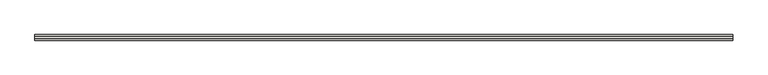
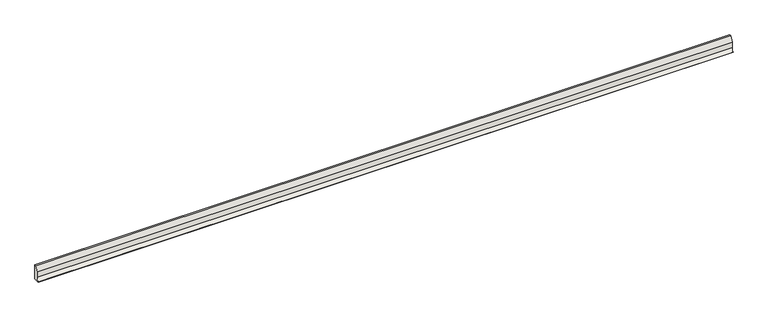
"""IFC4 building model written with IfcOpenShell, lengths in millimetres: wall geometry, GM_PC_WPB_ACO kerb PB straight_ACO : PB H100 plain."""

import ifcopenshell
import ifcopenshell.guid

model = None  # the IFC model being written
_history = None  # IfcOwnerHistory: only IFC2X3 demands one
_inside = {}  # id of a spatial element -> (the spatial element, [elements in it])
_under = {}  # id of a project, library or spatial element -> (it, [spatial elements below it])
_declared = {}  # id of a project -> (the project, [libraries it declares])
_typed = {}  # id of a type object -> (the type object, [elements of that type])
_made_of = {}  # id of a material, layer set ... -> (it, [elements and type objects made of it])


def new_model(schema):
    """Start an empty IFC model of exactly this schema.

    Asked for "IFC4X3", IfcOpenShell would pick the latest addendum, in which some entities
    have other attributes; the version numbers below select the first issue.
    IFC2X3 requires an IfcOwnerHistory on every rooted entity: one is made here for all.
    """
    global model, _history
    if schema == "IFC4X3":
        model = ifcopenshell.file(schema_version=(4, 3, 0, 0))
    else:
        model = ifcopenshell.file(schema=schema)
    _inside.clear()
    _under.clear()
    _declared.clear()
    _typed.clear()
    _made_of.clear()
    _history = None
    if model.schema == "IFC2X3":
        org = make("IfcOrganization", Name="unknown")
        user = make(
            "IfcPersonAndOrganization",
            ThePerson=make("IfcPerson", FamilyName="unknown"),
            TheOrganization=org,
        )
        app = make(
            "IfcApplication",
            ApplicationDeveloper=org,
            Version="unknown",
            ApplicationFullName="unknown",
            ApplicationIdentifier="unknown",
        )
        _history = make(
            "IfcOwnerHistory",
            OwningUser=user,
            OwningApplication=app,
            ChangeAction="ADDED",
            CreationDate=0,
        )
    return model


def make(cls, **values):
    """One entity of the class cls with the attributes given. An attribute that is None is left unset."""
    return model.create_entity(
        cls, **{name: value for name, value in values.items() if value is not None}
    )


def rooted(cls, **values):
    """An entity with a GlobalId (a new one), such as an element, a storey or a relation."""
    return make(cls, GlobalId=ifcopenshell.guid.new(), OwnerHistory=_history, **values)


def si_unit(unit_type, name, prefix=None):
    """IfcSIUnit, for example si_unit("LENGTHUNIT", "METRE", prefix="MILLI")."""
    return make("IfcSIUnit", UnitType=unit_type, Prefix=prefix, Name=name)


def assignment(units):
    """IfcUnitAssignment: the units of a project."""
    return None if units is None else make("IfcUnitAssignment", Units=units)


def point(xyz):
    """IfcCartesianPoint."""
    return None if xyz is None else make("IfcCartesianPoint", Coordinates=xyz)


def direction(xyz):
    """IfcDirection."""
    return None if xyz is None else make("IfcDirection", DirectionRatios=xyz)


def frame(location, z_axis=None, x_axis=None):
    """IfcAxis2Placement3D, a coordinate frame: its origin and axes. An axis left out is left unset."""
    return make(
        "IfcAxis2Placement3D",
        Location=point(location),
        Axis=direction(z_axis),
        RefDirection=direction(x_axis),
    )


def frame_2d(location, x_axis=None):
    """IfcAxis2Placement2D, a coordinate frame in the plane: its origin and x axis."""
    return make(
        "IfcAxis2Placement2D", Location=point(location), RefDirection=direction(x_axis)
    )


def origin():
    """The frame at (0, 0, 0) with its axes left unset."""
    return frame((0.0, 0.0, 0.0))


def place(relative_to, where):
    """IfcLocalPlacement: puts the frame where relative to a parent placement (None: the world)."""
    return make(
        "IfcLocalPlacement", PlacementRelTo=relative_to, RelativePlacement=where
    )


def context(
    kind, dimensions, precision=None, world=None, true_north=None, identifier=None
):
    """IfcGeometricRepresentationContext, for example the 3D "Model" context."""
    return make(
        "IfcGeometricRepresentationContext",
        ContextIdentifier=identifier,
        ContextType=kind,
        CoordinateSpaceDimension=dimensions,
        Precision=precision,
        WorldCoordinateSystem=world,
        TrueNorth=true_north,
    )


def project(units=None, contexts=None):
    """IfcProject with its units and contexts."""
    return rooted(
        "IfcProject",
        Name="project",
        RepresentationContexts=contexts,
        UnitsInContext=assignment(units),
    )


def spatial(cls, under=None, at=None, **own):
    """A site, building, storey or space (cls), placed at a placement, below another one or the project."""
    s = rooted(cls, ObjectPlacement=at, **own)
    if under is not None:
        _under.setdefault(under.id(), (under, []))[1].append(s)
    return s


def polyline(points):
    """IfcPolyline through the points."""
    return make("IfcPolyline", Points=[point(p) for p in points])


def circle_curve(where, radius):
    """IfcCircle in the frame where."""
    return make("IfcCircle", Position=where, Radius=radius)


def trimmed(basis, trim1, trim2, sense, master):
    """IfcTrimmedCurve: the piece of a basis curve between two trims."""
    return make(
        "IfcTrimmedCurve",
        BasisCurve=basis,
        Trim1=trim1,
        Trim2=trim2,
        SenseAgreement=sense,
        MasterRepresentation=master,
    )


def segment(curve, same_sense, transition):
    """IfcCompositeCurveSegment."""
    return make(
        "IfcCompositeCurveSegment",
        Transition=transition,
        SameSense=same_sense,
        ParentCurve=curve,
    )


def composite_curve(segments, self_intersect=None):
    """IfcCompositeCurve: segments joined end to end."""
    return make("IfcCompositeCurve", Segments=segments, SelfIntersect=self_intersect)


def outline(outer, holes=None, kind="AREA"):
    """IfcArbitraryClosedProfileDef: a profile drawn as a closed curve; with holes, ...WithVoids."""
    if holes is None:
        return make("IfcArbitraryClosedProfileDef", ProfileType=kind, OuterCurve=outer)
    return make(
        "IfcArbitraryProfileDefWithVoids",
        ProfileType=kind,
        OuterCurve=outer,
        InnerCurves=holes,
    )


def extrude(swept, where, along, depth):
    """IfcExtrudedAreaSolid: the profile swept, set in the frame where, extruded along a direction by depth."""
    return make(
        "IfcExtrudedAreaSolid",
        SweptArea=swept,
        Position=where,
        ExtrudedDirection=direction(along),
        Depth=depth,
    )


def shape(context_of_items, identifier, shape_type, items):
    """IfcShapeRepresentation: the items that make up one representation, for example the "Body"."""
    return make(
        "IfcShapeRepresentation",
        ContextOfItems=context_of_items,
        RepresentationIdentifier=identifier,
        RepresentationType=shape_type,
        Items=items,
    )


def source(mapping_origin, context_of_items, identifier, shape_type, items):
    """IfcRepresentationMap: a shape defined once, which mapped items show again and again."""
    return make(
        "IfcRepresentationMap",
        MappingOrigin=mapping_origin,
        MappedRepresentation=shape(context_of_items, identifier, shape_type, items),
    )


def transform(
    local_origin,
    x_axis=None,
    y_axis=None,
    z_axis=None,
    scale=None,
    scale2=None,
    scale3=None,
    uniform=True,
):
    """IfcCartesianTransformationOperator3D, or its non-uniform kind. x_axis, y_axis, z_axis: its Axis1, 2, 3."""
    if uniform:
        return make(
            "IfcCartesianTransformationOperator3D",
            Axis1=direction(x_axis),
            Axis2=direction(y_axis),
            LocalOrigin=point(local_origin),
            Scale=scale,
            Axis3=direction(z_axis),
        )
    return make(
        "IfcCartesianTransformationOperator3DnonUniform",
        Axis1=direction(x_axis),
        Axis2=direction(y_axis),
        LocalOrigin=point(local_origin),
        Scale=scale,
        Axis3=direction(z_axis),
        Scale2=scale2,
        Scale3=scale3,
    )


def mapped(mapping_source, mapping_target):
    """IfcMappedItem: shows the shape of a source again, moved by a transform."""
    return make(
        "IfcMappedItem", MappingSource=mapping_source, MappingTarget=mapping_target
    )


def made_of(thing, what):
    """Note that an element or type object is made of a material, layer set ...; save() writes the relation."""
    if what is not None:
        _made_of.setdefault(what.id(), (what, []))[1].append(thing)
    return thing


def element(
    cls,
    number,
    at=None,
    inside=None,
    cuts=None,
    type_object=None,
    material=None,
    context=None,
    identifier="Body",
    shape_type=None,
    held_by="IfcProductDefinitionShape",
    body=None,
    shapes=None,
    **own,
):
    """One element of the class cls, such as IfcWall. Its Tag is "e" and its number.

    at: its placement. inside: the storey or other place that contains it. cuts: it is an
    opening in that element (IfcRelVoidsElement). A single representation is given by context,
    identifier, shape_type and body (its items); several are given by shapes. held_by: the class
    of the entity that holds the representations. save() writes the other relations.
    """
    e = rooted(cls, Tag="e%d" % number, ObjectPlacement=at, **own)
    if body is not None:
        shapes = [shape(context, identifier, shape_type, body)]
    if shapes is not None:
        e.Representation = make(held_by, Representations=shapes)
    if inside is not None:
        _inside.setdefault(inside.id(), (inside, []))[1].append(e)
    if cuts is not None:
        rooted(
            "IfcRelVoidsElement", RelatingBuildingElement=cuts, RelatedOpeningElement=e
        )
    if type_object is not None:
        _typed.setdefault(type_object.id(), (type_object, []))[1].append(e)
    return made_of(e, material)


def aggregate(whole, parts):
    """IfcRelAggregates: a whole, such as a stair, and the parts it consists of."""
    return rooted("IfcRelAggregates", RelatingObject=whole, RelatedObjects=parts)


def save(model, path):
    """Write the relations noted so far, then the file.

    IfcRelAggregates (storeys below a building ...), IfcRelContainedInSpatialStructure (elements
    in a storey), IfcRelDefinesByType, IfcRelAssociatesMaterial and IfcRelDeclares: one each for
    every whole, place, type object, material and project.
    """
    for whole, parts in _under.values():
        aggregate(whole, parts)
    for where, things in _inside.values():
        rooted(
            "IfcRelContainedInSpatialStructure",
            RelatedElements=things,
            RelatingStructure=where,
        )
    for kind, things in _typed.values():
        rooted("IfcRelDefinesByType", RelatedObjects=things, RelatingType=kind)
    for what, things in _made_of.values():
        rooted("IfcRelAssociatesMaterial", RelatedObjects=things, RelatingMaterial=what)
    for by, libraries in _declared.values():
        rooted("IfcRelDeclares", RelatingContext=by, RelatedDefinitions=libraries)
    model.write(path)


def wall_18992cda(model_context):
    return source(origin(), model_context, "Body", "SweptSolid", [
        extrude(outline(composite_curve([segment(polyline([(-25.0, 65.0), (-12.0, 100.0), (0.0, 100.0), (0.0, 0.0), (-37.0, 0.0), (-37.0, 2.5)]), True, "CONTINUOUS"), segment(trimmed(circle_curve(frame_2d((-54.0104167, 26.0)), 29.0104167), [point((-37.0, 2.5))], [point((-25.0, 26.0))], True, "CARTESIAN"), True, "CONTINUOUS"), segment(polyline([(-25.0, 26.0), (-25.0, 65.0)]), True, "CONTINUOUS")], self_intersect=False)), frame((0.0, 0.0, 0.0), z_axis=(1.0, 0.0, 0.0), x_axis=(0.0, 1.0, 0.0)), (0.0, 0.0, 1.0), 4600.0),
    ])


if __name__ == "__main__":
    model = new_model("IFC4")
    model_context = context("Model", 3, world=origin())
    ifc_project = project(units=[si_unit("LENGTHUNIT", "METRE", prefix="MILLI")], contexts=[model_context])
    site = spatial("IfcSite", under=ifc_project)
    building = spatial("IfcBuilding", under=site)
    placement = place(None, origin())
    wall_shape = wall_18992cda(model_context)
    element("IfcWall", 1, ObjectType="GM_PC_WPB_ACO kerb PB straight_ACO : PB H100 plain", at=placement, inside=building, context=model_context, shape_type="MappedRepresentation", body=[
        mapped(wall_shape, transform((0.0, 0.0, 0.0), x_axis=(1.0, 0.0, 0.0), y_axis=(0.0, 1.0, 0.0), z_axis=(0.0, 0.0, 1.0))),
    ])
    save(model, "model.ifc")
